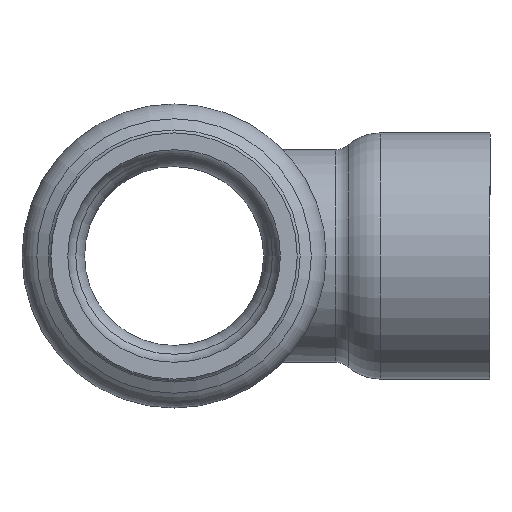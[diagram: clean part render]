
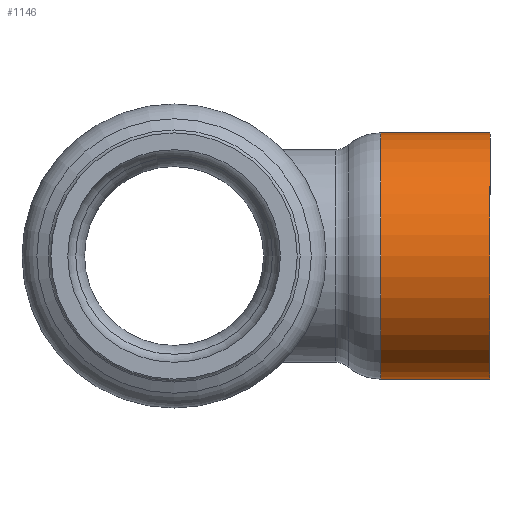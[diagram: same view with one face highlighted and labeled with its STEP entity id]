
A CAD part, left-side view. The second image highlights one B-rep face of the part: STEP entity #1146.
In plain terms, the highlighted cylindrical face has radius 15.443 mm (diameter 30.886 mm), a full revolution.
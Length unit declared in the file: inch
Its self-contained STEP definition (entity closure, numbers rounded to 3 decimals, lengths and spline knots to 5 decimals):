
#84=FACE_OUTER_BOUND('',#133,.T.);
#133=EDGE_LOOP('',(#720,#721,#722,#723,#724,#725));
#186=CIRCLE('',#1222,0.608);
#187=CIRCLE('',#1223,0.608);
#188=CIRCLE('',#1224,0.608);
#189=CIRCLE('',#1225,0.608);
#337=LINE('',#1927,#361);
#361=VECTOR('',#1459,0.608);
#398=VERTEX_POINT('',#1922);
#399=VERTEX_POINT('',#1923);
#400=VERTEX_POINT('',#1926);
#401=VERTEX_POINT('',#1928);
#535=EDGE_CURVE('',#398,#399,#186,.T.);
#536=EDGE_CURVE('',#399,#398,#187,.T.);
#537=EDGE_CURVE('',#399,#400,#337,.T.);
#538=EDGE_CURVE('',#400,#401,#188,.T.);
#539=EDGE_CURVE('',#401,#400,#189,.T.);
#720=ORIENTED_EDGE('',*,*,#535,.F.);
#721=ORIENTED_EDGE('',*,*,#536,.F.);
#722=ORIENTED_EDGE('',*,*,#537,.T.);
#723=ORIENTED_EDGE('',*,*,#538,.T.);
#724=ORIENTED_EDGE('',*,*,#539,.T.);
#725=ORIENTED_EDGE('',*,*,#537,.F.);
#1081=CYLINDRICAL_SURFACE('',#1221,0.608);
#1146=ADVANCED_FACE('',(#84),#1081,.T.);
#1221=AXIS2_PLACEMENT_3D('',#1921,#1453,#1454);
#1222=AXIS2_PLACEMENT_3D('',#1924,#1455,#1456);
#1223=AXIS2_PLACEMENT_3D('',#1925,#1457,#1458);
#1224=AXIS2_PLACEMENT_3D('',#1929,#1460,#1461);
#1225=AXIS2_PLACEMENT_3D('',#1930,#1462,#1463);
#1453=DIRECTION('center_axis',(0.,1.,0.));
#1454=DIRECTION('ref_axis',(0.,0.,1.));
#1455=DIRECTION('center_axis',(0.,1.,0.));
#1456=DIRECTION('ref_axis',(0.,0.,1.));
#1457=DIRECTION('center_axis',(0.,1.,0.));
#1458=DIRECTION('ref_axis',(0.,0.,1.));
#1459=DIRECTION('',(0.,-1.,0.));
#1460=DIRECTION('center_axis',(0.,1.,0.));
#1461=DIRECTION('ref_axis',(0.,0.,1.));
#1462=DIRECTION('center_axis',(0.,1.,0.));
#1463=DIRECTION('ref_axis',(0.,0.,1.));
#1921=CARTESIAN_POINT('Origin',(0.,-1.29,0.));
#1922=CARTESIAN_POINT('',(0.,-1.02,0.608));
#1923=CARTESIAN_POINT('',(0.,-1.02,-0.608));
#1924=CARTESIAN_POINT('Origin',(0.,-1.02,0.));
#1925=CARTESIAN_POINT('Origin',(0.,-1.02,0.));
#1926=CARTESIAN_POINT('',(0.,-1.56,-0.608));
#1927=CARTESIAN_POINT('',(0.,-1.29,-0.608));
#1928=CARTESIAN_POINT('',(0.,-1.56,0.608));
#1929=CARTESIAN_POINT('Origin',(0.,-1.56,0.));
#1930=CARTESIAN_POINT('Origin',(0.,-1.56,0.));
